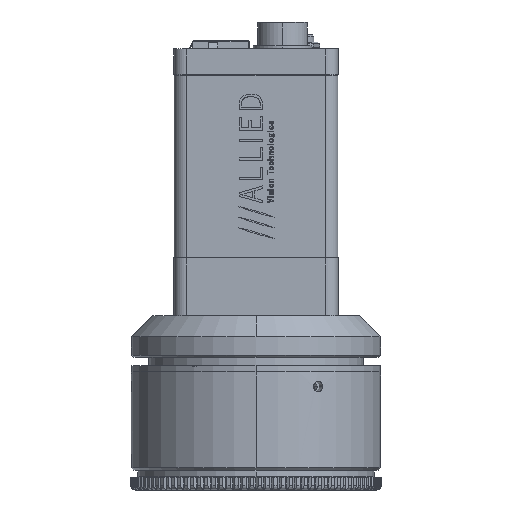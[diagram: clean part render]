
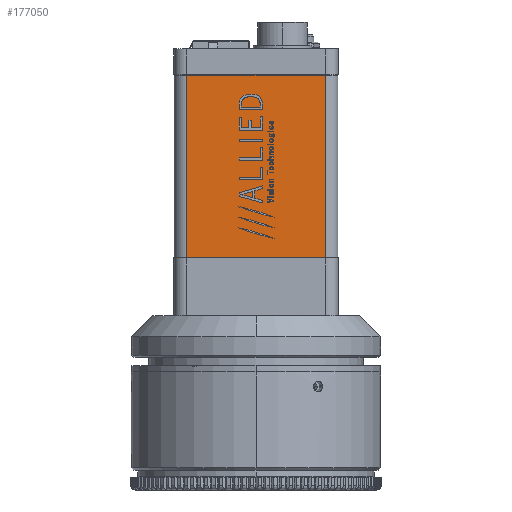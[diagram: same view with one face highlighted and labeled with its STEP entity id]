
A CAD part, left-side view. The second image highlights one B-rep face of the part: STEP entity #177050.
In plain terms, the highlighted planar face has unit normal (-1, 0, 0).
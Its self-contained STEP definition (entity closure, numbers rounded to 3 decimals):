
#329 = CARTESIAN_POINT ( 'NONE',  ( -25.714, 16.558, 108.336 ) ) ;
#14967 = CARTESIAN_POINT ( 'NONE',  ( -25.714, 16.558, 43.65 ) ) ;
#18359 = DIRECTION ( 'NONE',  ( 0., 0., 1. ) ) ;
#21503 = EDGE_CURVE ( 'NONE', #79421, #40063, #75245, .T. ) ;
#22098 = EDGE_CURVE ( 'NONE', #180423, #79421, #232309, .T. ) ;
#37364 = CARTESIAN_POINT ( 'NONE',  ( -25.714, 16.558, 0. ) ) ;
#38613 = AXIS2_PLACEMENT_3D ( 'NONE', #329, #126336, #18359 ) ;
#40063 = VERTEX_POINT ( 'NONE', #158066 ) ;
#43010 = VERTEX_POINT ( 'NONE', #200565 ) ;
#68875 = LINE ( 'NONE', #223013, #164567 ) ;
#75245 = LINE ( 'NONE', #14967, #165205 ) ;
#79421 = VERTEX_POINT ( 'NONE', #149270 ) ;
#79702 = CARTESIAN_POINT ( 'NONE',  ( -25.714, -16.558, 0. ) ) ;
#80575 = EDGE_CURVE ( 'NONE', #43010, #180423, #181561, .T. ) ;
#94383 = VECTOR ( 'NONE', #106904, 1000. ) ;
#106904 = DIRECTION ( 'NONE',  ( 0., 0., 1. ) ) ;
#108969 = ORIENTED_EDGE ( 'NONE', *, *, #188134, .T. ) ;
#115258 = ORIENTED_EDGE ( 'NONE', *, *, #22098, .F. ) ;
#121288 = ORIENTED_EDGE ( 'NONE', *, *, #21503, .F. ) ;
#126336 = DIRECTION ( 'NONE',  ( -1., 0., 0. ) ) ;
#133839 = DIRECTION ( 'NONE',  ( 0., 1., 0. ) ) ;
#149270 = CARTESIAN_POINT ( 'NONE',  ( -25.714, 16.558, 43.65 ) ) ;
#158066 = CARTESIAN_POINT ( 'NONE',  ( -25.714, -16.558, 43.65 ) ) ;
#159789 = DIRECTION ( 'NONE',  ( 0., -1., 0. ) ) ;
#164567 = VECTOR ( 'NONE', #222231, 1000. ) ;
#164773 = ORIENTED_EDGE ( 'NONE', *, *, #80575, .F. ) ;
#165205 = VECTOR ( 'NONE', #159789, 1000. ) ;
#174396 = EDGE_LOOP ( 'NONE', ( #115258, #164773, #108969, #121288 ) ) ;
#175969 = VECTOR ( 'NONE', #133839, 1000. ) ;
#177050 = ADVANCED_FACE ( 'NONE', ( #190097 ), #233300, .T. ) ;
#180423 = VERTEX_POINT ( 'NONE', #37364 ) ;
#181561 = LINE ( 'NONE', #79702, #175969 ) ;
#188134 = EDGE_CURVE ( 'NONE', #43010, #40063, #68875, .T. ) ;
#190097 = FACE_OUTER_BOUND ( 'NONE', #174396, .T. ) ;
#200565 = CARTESIAN_POINT ( 'NONE',  ( -25.714, -16.558, 0. ) ) ;
#214649 = CARTESIAN_POINT ( 'NONE',  ( -25.714, 16.558, 108.336 ) ) ;
#222231 = DIRECTION ( 'NONE',  ( 0., 0., 1. ) ) ;
#223013 = CARTESIAN_POINT ( 'NONE',  ( -25.714, -16.558, 108.336 ) ) ;
#232309 = LINE ( 'NONE', #214649, #94383 ) ;
#233300 = PLANE ( 'NONE',  #38613 ) ;
